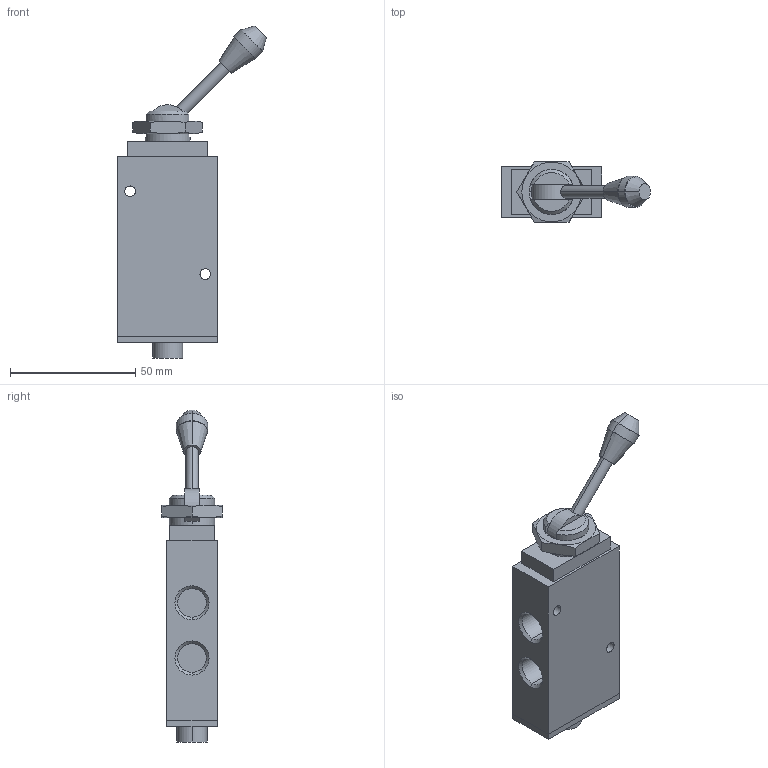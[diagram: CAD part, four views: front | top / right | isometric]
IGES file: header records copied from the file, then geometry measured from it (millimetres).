
Global section: file name: No Iges File Name specified; native system: AutoDesk Inventor R11.0; preprocessor: AutoDesk Inventor Iges Exporter R11.0; author: No Author specified; organization: No Organization specified; date: 20061219.113450; units: millimetre
Bounding box: 59.42 x 24 x 132.42 mm (x, y, z)
Volume: 64085.1 mm3; surface area: 17568.5 mm2
Topology: 3 solids, 3 shells, 98 faces, 224 edges, 144 vertices
Faces by surface type: plane 38, bspline 31, revolution 12, cylinder 9, cone 8
